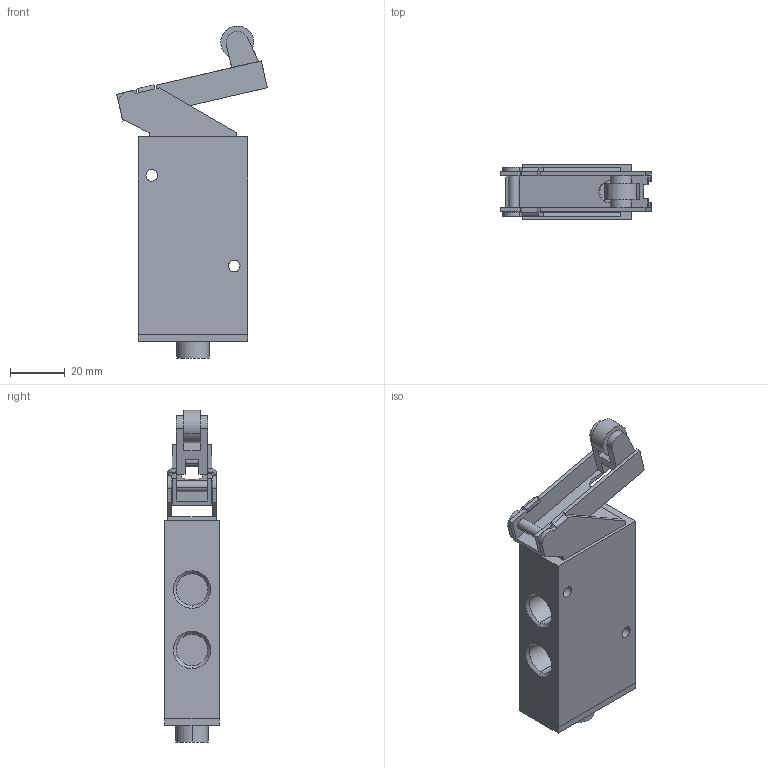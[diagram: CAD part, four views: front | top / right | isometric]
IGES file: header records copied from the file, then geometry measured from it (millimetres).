
Global section: file name: No Iges File Name specified; native system: AutoDesk Inventor R11.0; preprocessor: AutoDesk Inventor Iges Exporter R11.0; author: No Author specified; organization: No Organization specified; date: 20061219.113435; units: millimetre
Bounding box: 54.87 x 20 x 120.84 mm (x, y, z)
Volume: 60681.3 mm3; surface area: 20829.6 mm2
Topology: 3 solids, 3 shells, 139 faces, 342 edges, 216 vertices
Faces by surface type: plane 81, bspline 37, cylinder 16, revolution 5
